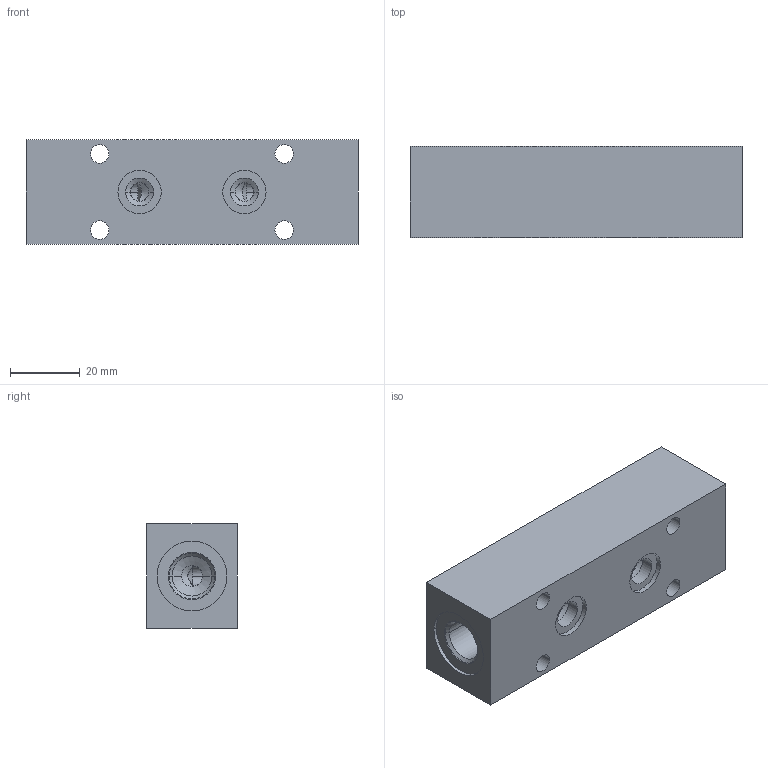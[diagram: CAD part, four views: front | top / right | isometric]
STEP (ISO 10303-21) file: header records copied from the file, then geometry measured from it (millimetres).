
FILE_DESCRIPTION((''),'2;1');
FILE_NAME('28463002','2020-09-09T',('l.soukupova'),(''),'PRO/ENGINEER BY PARAMETRIC TECHNOLOGY CORPORATION, 2015440','PRO/ENGINEER BY PARAMETRIC TECHNOLOGY CORPORATION, 2015440','');
FILE_SCHEMA(('AUTOMOTIVE_DESIGN { 1 0 10303 214 1 1 1 1 }'));
Length unit declared in the file: millimetre
Products named in the file (1): 28463002
Bounding box: 95 x 26 x 30 mm (x, y, z)
Volume: 65957.9 mm3; surface area: 16965.3 mm2
Topology: 1 solids, 3 shells, 64 faces, 177 edges, 138 vertices
Faces by surface type: cylinder 36, cone 16, plane 12
Entity records: 2949 total; most frequent: CARTESIAN_POINT 548, DIRECTION 381, ORIENTED_EDGE 292, PRESENTATION_STYLE_ASSIGNMENT 191, STYLED_ITEM 185, CURVE_STYLE 182, EDGE_CURVE 150, AXIS2_PLACEMENT_3D 147
